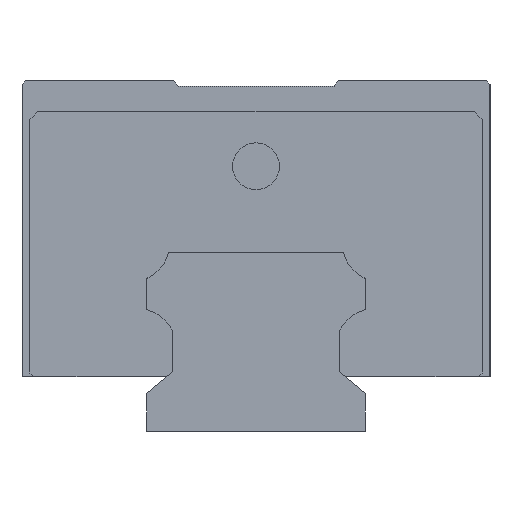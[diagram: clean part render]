
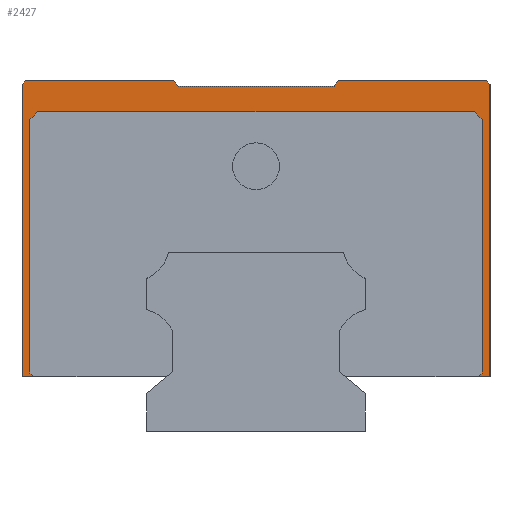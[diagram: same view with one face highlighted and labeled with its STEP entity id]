
A CAD part, left-side view. The second image highlights one B-rep face of the part: STEP entity #2427.
In plain terms, the highlighted planar face has unit normal (-1, 0, 0).
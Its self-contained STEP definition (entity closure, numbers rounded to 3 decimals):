
#83 = DIRECTION ( 'NONE',  ( 0., 0.643, -0.766 ) ) ;
#85 = CARTESIAN_POINT ( 'NONE',  ( -34.65, -30., 44.5 ) ) ;
#177 = LINE ( 'NONE', #1955, #2530 ) ;
#187 = DIRECTION ( 'NONE',  ( 0., 1., 0. ) ) ;
#304 = VERTEX_POINT ( 'NONE', #577 ) ;
#430 = LINE ( 'NONE', #2649, #3747 ) ;
#456 = CARTESIAN_POINT ( 'NONE',  ( -34.65, -30., 44.5 ) ) ;
#535 = ORIENTED_EDGE ( 'NONE', *, *, #5193, .T. ) ;
#577 = CARTESIAN_POINT ( 'NONE',  ( -34.65, 29.5, 45. ) ) ;
#584 = CARTESIAN_POINT ( 'NONE',  ( -34.65, 30., 45. ) ) ;
#587 = EDGE_CURVE ( 'NONE', #2827, #5559, #177, .T. ) ;
#694 = CARTESIAN_POINT ( 'NONE',  ( -34.65, 30., 45. ) ) ;
#706 = EDGE_CURVE ( 'NONE', #2827, #2134, #721, .T. ) ;
#721 = LINE ( 'NONE', #2502, #2138 ) ;
#803 = EDGE_CURVE ( 'NONE', #1775, #1194, #430, .T. ) ;
#890 = LINE ( 'NONE', #4100, #3324 ) ;
#911 = LINE ( 'NONE', #1313, #4343 ) ;
#1094 = EDGE_CURVE ( 'NONE', #2043, #4682, #5196, .T. ) ;
#1112 = CARTESIAN_POINT ( 'NONE',  ( -34.65, -30., 45. ) ) ;
#1194 = VERTEX_POINT ( 'NONE', #5668 ) ;
#1207 = VERTEX_POINT ( 'NONE', #2984 ) ;
#1218 = ORIENTED_EDGE ( 'NONE', *, *, #3545, .T. ) ;
#1269 = CARTESIAN_POINT ( 'NONE',  ( -34.65, 28., 41. ) ) ;
#1290 = DIRECTION ( 'NONE',  ( 0., 0.707, -0.707 ) ) ;
#1313 = CARTESIAN_POINT ( 'NONE',  ( -34.65, -30., 7. ) ) ;
#1361 = VECTOR ( 'NONE', #5536, 1000. ) ;
#1490 = DIRECTION ( 'NONE',  ( 0., -1., 0. ) ) ;
#1606 = CARTESIAN_POINT ( 'NONE',  ( -34.65, 10., 44.25 ) ) ;
#1670 = CARTESIAN_POINT ( 'NONE',  ( -34.65, -29., 7.5 ) ) ;
#1689 = CARTESIAN_POINT ( 'NONE',  ( -34.65, -30., 7. ) ) ;
#1695 = CARTESIAN_POINT ( 'NONE',  ( -34.65, 10., 44.25 ) ) ;
#1775 = VERTEX_POINT ( 'NONE', #4498 ) ;
#1813 = ORIENTED_EDGE ( 'NONE', *, *, #5280, .T. ) ;
#1841 = EDGE_CURVE ( 'NONE', #3435, #4682, #5792, .T. ) ;
#1852 = ORIENTED_EDGE ( 'NONE', *, *, #4878, .F. ) ;
#1889 = ORIENTED_EDGE ( 'NONE', *, *, #803, .T. ) ;
#1955 = CARTESIAN_POINT ( 'NONE',  ( -34.65, 11.769, 7. ) ) ;
#1960 = CARTESIAN_POINT ( 'NONE',  ( -34.65, 30., 7. ) ) ;
#1992 = CARTESIAN_POINT ( 'NONE',  ( -34.65, -28., 41. ) ) ;
#2026 = LINE ( 'NONE', #4735, #3520 ) ;
#2043 = VERTEX_POINT ( 'NONE', #5023 ) ;
#2073 = ORIENTED_EDGE ( 'NONE', *, *, #5568, .T. ) ;
#2105 = VECTOR ( 'NONE', #2260, 1000. ) ;
#2134 = VERTEX_POINT ( 'NONE', #2333 ) ;
#2138 = VECTOR ( 'NONE', #3039, 1000. ) ;
#2154 = CARTESIAN_POINT ( 'NONE',  ( -34.65, 29.5, 45. ) ) ;
#2179 = LINE ( 'NONE', #3601, #5038 ) ;
#2260 = DIRECTION ( 'NONE',  ( 0., 0., -1. ) ) ;
#2303 = CARTESIAN_POINT ( 'NONE',  ( -34.65, 29., 40. ) ) ;
#2332 = VECTOR ( 'NONE', #5471, 1000. ) ;
#2333 = CARTESIAN_POINT ( 'NONE',  ( -34.65, 29., 7.5 ) ) ;
#2353 = DIRECTION ( 'NONE',  ( 0., -0.707, 0.707 ) ) ;
#2372 = EDGE_CURVE ( 'NONE', #3307, #1775, #2380, .T. ) ;
#2375 = VECTOR ( 'NONE', #3132, 1000. ) ;
#2380 = LINE ( 'NONE', #1992, #1361 ) ;
#2427 = ADVANCED_FACE ( 'NONE', ( #2822 ), #5594, .F. ) ;
#2471 = VECTOR ( 'NONE', #1290, 1000. ) ;
#2472 = ORIENTED_EDGE ( 'NONE', *, *, #5335, .T. ) ;
#2498 = ORIENTED_EDGE ( 'NONE', *, *, #1841, .T. ) ;
#2502 = CARTESIAN_POINT ( 'NONE',  ( -34.65, 28.5, 7. ) ) ;
#2530 = VECTOR ( 'NONE', #3756, 1000. ) ;
#2585 = EDGE_LOOP ( 'NONE', ( #5418, #4624, #2472, #2073, #1218, #4057, #1889, #2970, #5490, #2898, #2498, #4806, #1813, #5599, #5718, #1852, #535, #4929 ) ) ;
#2599 = EDGE_CURVE ( 'NONE', #4678, #4439, #3851, .T. ) ;
#2649 = CARTESIAN_POINT ( 'NONE',  ( -34.65, -29., 40. ) ) ;
#2699 = LINE ( 'NONE', #5384, #2105 ) ;
#2822 = FACE_OUTER_BOUND ( 'NONE', #2585, .T. ) ;
#2827 = VERTEX_POINT ( 'NONE', #4118 ) ;
#2837 = EDGE_CURVE ( 'NONE', #5559, #3476, #3267, .T. ) ;
#2841 = VECTOR ( 'NONE', #3293, 1000. ) ;
#2845 = VECTOR ( 'NONE', #83, 1000. ) ;
#2864 = CARTESIAN_POINT ( 'NONE',  ( -34.65, -10.629, 45. ) ) ;
#2898 = ORIENTED_EDGE ( 'NONE', *, *, #3840, .F. ) ;
#2931 = VERTEX_POINT ( 'NONE', #1689 ) ;
#2970 = ORIENTED_EDGE ( 'NONE', *, *, #3798, .T. ) ;
#2984 = CARTESIAN_POINT ( 'NONE',  ( -34.65, -10., 44.25 ) ) ;
#3039 = DIRECTION ( 'NONE',  ( 0., 0.707, 0.707 ) ) ;
#3132 = DIRECTION ( 'NONE',  ( 0., 0.707, -0.707 ) ) ;
#3184 = CARTESIAN_POINT ( 'NONE',  ( -34.65, 30., 7. ) ) ;
#3221 = DIRECTION ( 'NONE',  ( 0., 0., 1. ) ) ;
#3267 = LINE ( 'NONE', #1960, #2332 ) ;
#3293 = DIRECTION ( 'NONE',  ( 0., -1., 0. ) ) ;
#3307 = VERTEX_POINT ( 'NONE', #5161 ) ;
#3324 = VECTOR ( 'NONE', #2353, 1000. ) ;
#3404 = CARTESIAN_POINT ( 'NONE',  ( -34.65, -29.5, 45. ) ) ;
#3406 = DIRECTION ( 'NONE',  ( 0., 0.643, 0.766 ) ) ;
#3435 = VERTEX_POINT ( 'NONE', #456 ) ;
#3476 = VERTEX_POINT ( 'NONE', #4520 ) ;
#3520 = VECTOR ( 'NONE', #187, 1000. ) ;
#3545 = EDGE_CURVE ( 'NONE', #4019, #3307, #2179, .T. ) ;
#3601 = CARTESIAN_POINT ( 'NONE',  ( -34.65, 28., 41. ) ) ;
#3631 = VERTEX_POINT ( 'NONE', #2303 ) ;
#3747 = VECTOR ( 'NONE', #5401, 1000. ) ;
#3756 = DIRECTION ( 'NONE',  ( 0., 1., 0. ) ) ;
#3798 = EDGE_CURVE ( 'NONE', #1194, #3927, #4797, .T. ) ;
#3807 = VECTOR ( 'NONE', #3406, 1000. ) ;
#3840 = EDGE_CURVE ( 'NONE', #3435, #2931, #2699, .T. ) ;
#3851 = LINE ( 'NONE', #1606, #3807 ) ;
#3927 = VERTEX_POINT ( 'NONE', #5443 ) ;
#3969 = VECTOR ( 'NONE', #1490, 1000. ) ;
#4019 = VERTEX_POINT ( 'NONE', #1269 ) ;
#4057 = ORIENTED_EDGE ( 'NONE', *, *, #2372, .T. ) ;
#4100 = CARTESIAN_POINT ( 'NONE',  ( -34.65, 29., 40. ) ) ;
#4110 = LINE ( 'NONE', #5464, #4174 ) ;
#4118 = CARTESIAN_POINT ( 'NONE',  ( -34.65, 28.5, 7. ) ) ;
#4174 = VECTOR ( 'NONE', #3221, 1000. ) ;
#4221 = LINE ( 'NONE', #2864, #2845 ) ;
#4343 = VECTOR ( 'NONE', #5414, 1000. ) ;
#4439 = VERTEX_POINT ( 'NONE', #4655 ) ;
#4498 = CARTESIAN_POINT ( 'NONE',  ( -34.65, -29., 40. ) ) ;
#4520 = CARTESIAN_POINT ( 'NONE',  ( -34.65, 30., 44.5 ) ) ;
#4624 = ORIENTED_EDGE ( 'NONE', *, *, #706, .T. ) ;
#4628 = DIRECTION ( 'NONE',  ( 0., 1., 0. ) ) ;
#4655 = CARTESIAN_POINT ( 'NONE',  ( -34.65, 10.629, 45. ) ) ;
#4657 = DIRECTION ( 'NONE',  ( 1., 0., 0. ) ) ;
#4678 = VERTEX_POINT ( 'NONE', #1695 ) ;
#4682 = VERTEX_POINT ( 'NONE', #3404 ) ;
#4735 = CARTESIAN_POINT ( 'NONE',  ( -34.65, -10., 44.25 ) ) ;
#4777 = EDGE_CURVE ( 'NONE', #2931, #3927, #911, .T. ) ;
#4797 = LINE ( 'NONE', #1670, #2471 ) ;
#4806 = ORIENTED_EDGE ( 'NONE', *, *, #1094, .F. ) ;
#4876 = LINE ( 'NONE', #2154, #2375 ) ;
#4878 = EDGE_CURVE ( 'NONE', #304, #4439, #5063, .T. ) ;
#4929 = ORIENTED_EDGE ( 'NONE', *, *, #2837, .F. ) ;
#4943 = DIRECTION ( 'NONE',  ( 0., 0.707, 0.707 ) ) ;
#5023 = CARTESIAN_POINT ( 'NONE',  ( -34.65, -10.629, 45. ) ) ;
#5038 = VECTOR ( 'NONE', #5281, 1000. ) ;
#5063 = LINE ( 'NONE', #584, #3969 ) ;
#5127 = AXIS2_PLACEMENT_3D ( 'NONE', #1112, #4657, #4628 ) ;
#5161 = CARTESIAN_POINT ( 'NONE',  ( -34.65, -28., 41. ) ) ;
#5193 = EDGE_CURVE ( 'NONE', #304, #3476, #4876, .T. ) ;
#5196 = LINE ( 'NONE', #694, #2841 ) ;
#5198 = VECTOR ( 'NONE', #4943, 1000. ) ;
#5280 = EDGE_CURVE ( 'NONE', #2043, #1207, #4221, .T. ) ;
#5281 = DIRECTION ( 'NONE',  ( 0., -1., 0. ) ) ;
#5335 = EDGE_CURVE ( 'NONE', #2134, #3631, #4110, .T. ) ;
#5384 = CARTESIAN_POINT ( 'NONE',  ( -34.65, -30., 45. ) ) ;
#5401 = DIRECTION ( 'NONE',  ( 0., 0., -1. ) ) ;
#5414 = DIRECTION ( 'NONE',  ( 0., 1., 0. ) ) ;
#5418 = ORIENTED_EDGE ( 'NONE', *, *, #587, .F. ) ;
#5443 = CARTESIAN_POINT ( 'NONE',  ( -34.65, -28.5, 7. ) ) ;
#5464 = CARTESIAN_POINT ( 'NONE',  ( -34.65, 29., 7.5 ) ) ;
#5471 = DIRECTION ( 'NONE',  ( 0., 0., 1. ) ) ;
#5490 = ORIENTED_EDGE ( 'NONE', *, *, #4777, .F. ) ;
#5536 = DIRECTION ( 'NONE',  ( 0., -0.707, -0.707 ) ) ;
#5559 = VERTEX_POINT ( 'NONE', #3184 ) ;
#5568 = EDGE_CURVE ( 'NONE', #3631, #4019, #890, .T. ) ;
#5594 = PLANE ( 'NONE',  #5127 ) ;
#5599 = ORIENTED_EDGE ( 'NONE', *, *, #5808, .T. ) ;
#5668 = CARTESIAN_POINT ( 'NONE',  ( -34.65, -29., 7.5 ) ) ;
#5718 = ORIENTED_EDGE ( 'NONE', *, *, #2599, .T. ) ;
#5792 = LINE ( 'NONE', #85, #5198 ) ;
#5808 = EDGE_CURVE ( 'NONE', #1207, #4678, #2026, .T. ) ;
